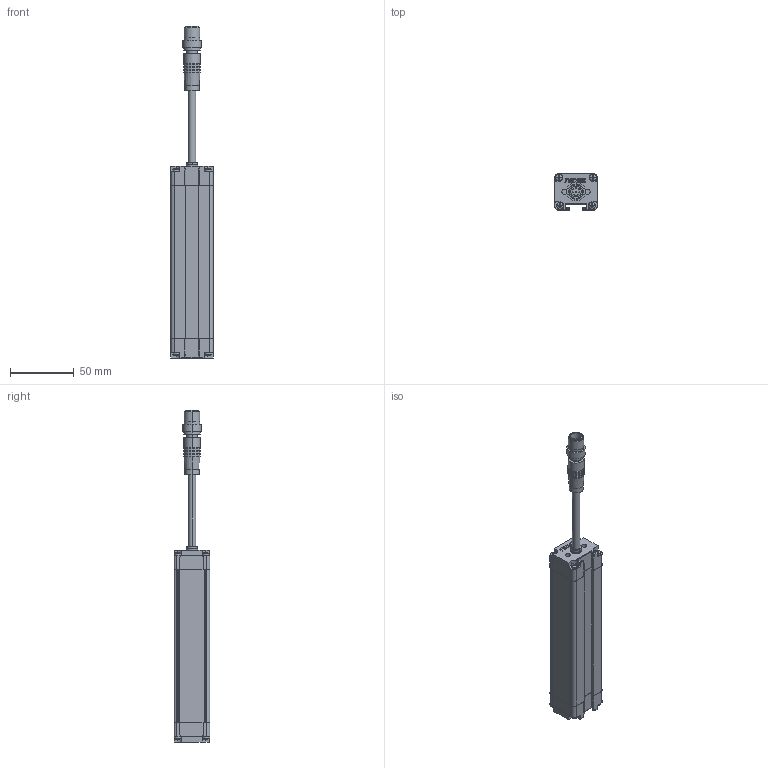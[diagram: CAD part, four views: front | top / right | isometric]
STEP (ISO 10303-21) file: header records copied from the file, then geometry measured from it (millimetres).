
FILE_DESCRIPTION((''),'2;1');
FILE_NAME('SMT1-CGQ_ASM','2025-08-08T08:18:40',('Administrator'),(''),'CREO PARAMETRIC BY PTC INC, 2016510','CREO PARAMETRIC BY PTC INC, 2016510','');
FILE_SCHEMA(('CONFIG_CONTROL_DESIGN'));
Length unit declared in the file: millimetre
Products named in the file (7): SMT1-XINGCAI-V1; SMT1-SDG-V1; SMT1-XDG-V1; M12-CHATOU; ST3X18; CT4-LVGUANGBAN; SMT1-CGQ_ASM
Assembly tree (13 placements, depth 2):
  SMT1-CGQ_ASM
    SMT1-XINGCAI-V1
    SMT1-SDG-V1
    SMT1-XDG-V1
    M12-CHATOU
    ST3X18  x8
    CT4-LVGUANGBAN
Bounding box: 33 x 28.02 x 259.5 mm (x, y, z)
Volume: 123185.6 mm3; surface area: 45555.4 mm2
Topology: 13 solids, 13 shells, 712 faces, 1868 edges, 1200 vertices
Faces by surface type: plane 382, cylinder 184, extrusion 86, sphere 32, cone 20, bspline 8
Entity records: 18128 total; most frequent: CARTESIAN_POINT 4347, ORIENTED_EDGE 2916, DIRECTION 2580, EDGE_CURVE 1458, VECTOR 1036, VERTEX_POINT 955, LINE 950, AXIS2_PLACEMENT_3D 772
